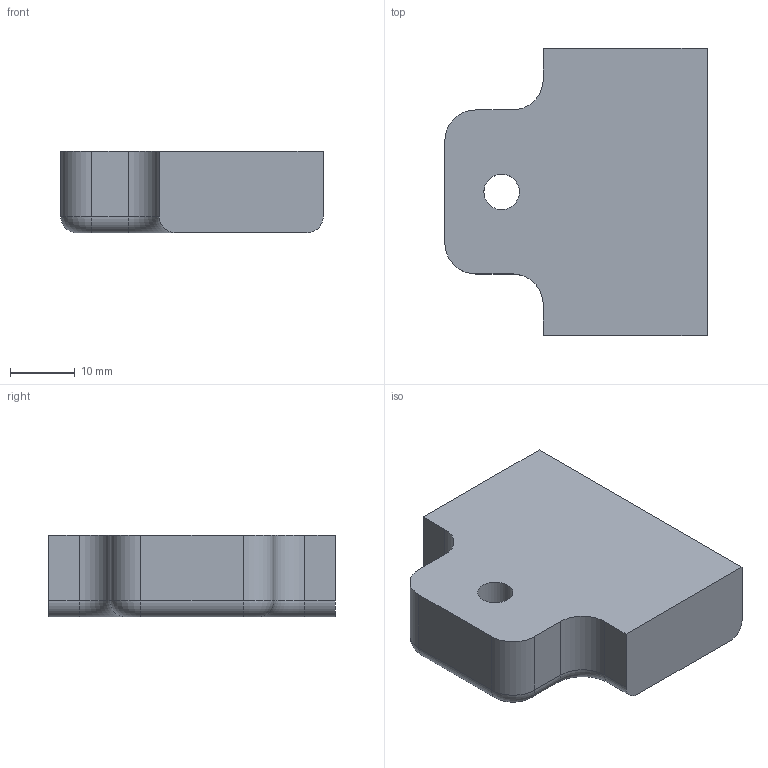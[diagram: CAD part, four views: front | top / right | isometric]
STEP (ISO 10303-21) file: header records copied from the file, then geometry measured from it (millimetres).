
FILE_DESCRIPTION(/* description */ ('STEP AP242 Edition 2','CAx-IF Rec.Pracs.---Representation and Presentation of Product Manufacturing Information (PMI)---4.0---2014-10-13','CAx-IF Rec.Pracs.---3D Tessellated Geometry---0.4---2014-09-14','2;1','CAx-IF Rec.Pracs.---User Defined Attributes---1.5---2016-08-15'),/* implementation_level */ '2;1');
FILE_NAME(/* name */ 'Part Studio 1 - Part 4',/* time_stamp */ '2026-05-08T15:01:28Z',/* author */ (''),/* organization */ (''),/* preprocessor_version */ 'ST-DEVELOPER v20',/* originating_system */ 'ONSHAPE BY PTC INC, 1.214',/* authorisation */ ' ');
FILE_SCHEMA (('AP242_MANAGED_MODEL_BASED_3D_ENGINEERING_MIM_LF { 1 0 10303 442 3 1 4 }'));
Length unit declared in the file: metre
Products named in the file (1): Part 4
Bounding box: 40.64 x 44.45 x 12.7 mm (x, y, z)
Volume: 18799.1 mm3; surface area: 5134.9 mm2
Topology: 1 solids, 1 shells, 25 faces, 62 edges, 39 vertices
Faces by surface type: cylinder 11, plane 10, torus 4
Full cylindrical faces by diameter (mm): 5.5 x1
Entity records: 758 total; most frequent: DIRECTION 138, CARTESIAN_POINT 124, ORIENTED_EDGE 120, EDGE_CURVE 60, AXIS2_PLACEMENT_3D 52, VERTEX_POINT 38, LINE 34, VECTOR 34
